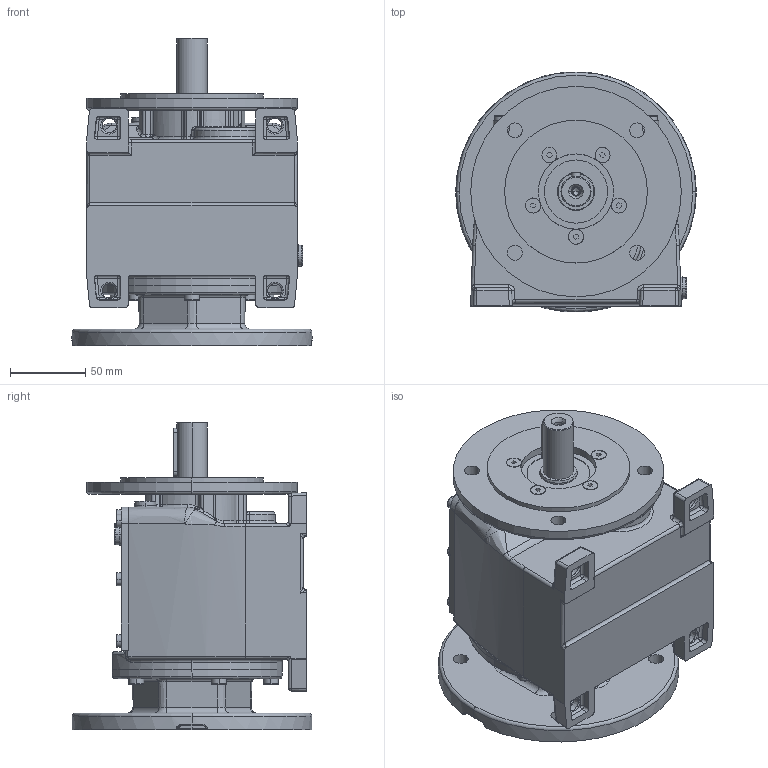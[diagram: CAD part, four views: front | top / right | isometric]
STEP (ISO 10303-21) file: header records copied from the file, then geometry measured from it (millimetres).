
FILE_DESCRIPTION (( 'STEP AP214' ), '1' );
FILE_NAME ('MTC22A-80-130+VP.STEP', '2006-05-03T09:19:32', ( '' ), ( '' ), 'SwSTEP 2.0', 'SolidWorks 2004146', '' );
FILE_SCHEMA (( 'AUTOMOTIVE_DESIGN' ));
Products named in the file (6): pøíruba d55 MRT60a_pøíruba 110-130-160; Skrin MTC2_A_MTC22_AP80; D7991_Šroub DIN 7991 - M5 x 16; Výst_pøíruba MTC_A_MTC2_A; D6912_Šroub DIN 6912 - M6x20; MTC22A-80-130+VP
Assembly tree (14 placements, depth 2):
  MTC22A-80-130+VP
    D7991_Šroub DIN 7991 - M5 x 16  x5
    D6912_Šroub DIN 6912 - M6x20  x6
    Výst_pøíruba MTC_A_MTC2_A
    pøíruba d55 MRT60a_pøíruba 110-130-160
    Skrin MTC2_A_MTC22_AP80
Bounding box: 159.74 x 159.43 x 204.5 mm (x, y, z)
Volume: 2075633.7 mm3; surface area: 205223.1 mm2
Topology: 14 solids, 14 shells, 1561 faces, 3620 edges, 2107 vertices
Faces by surface type: plane 410, cylinder 373, torus 359, cone 239, bspline 154, sphere 26
Entity records: 127602 total; most frequent: CARTESIAN_POINT 94392, DIRECTION 6543, ORIENTED_EDGE 6164, EDGE_CURVE 3082, AXIS2_PLACEMENT_3D 2747, VERTEX_POINT 1853, CIRCLE 1584, EDGE_LOOP 1411
